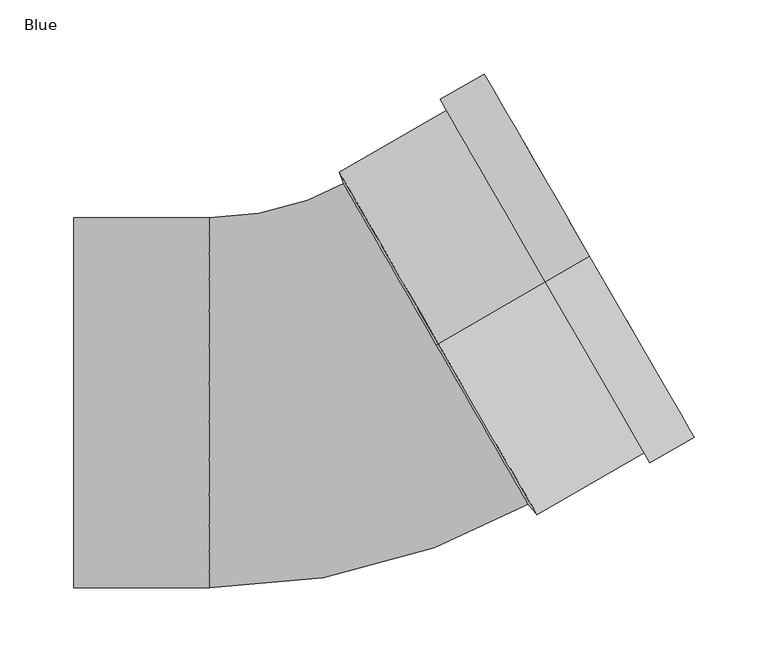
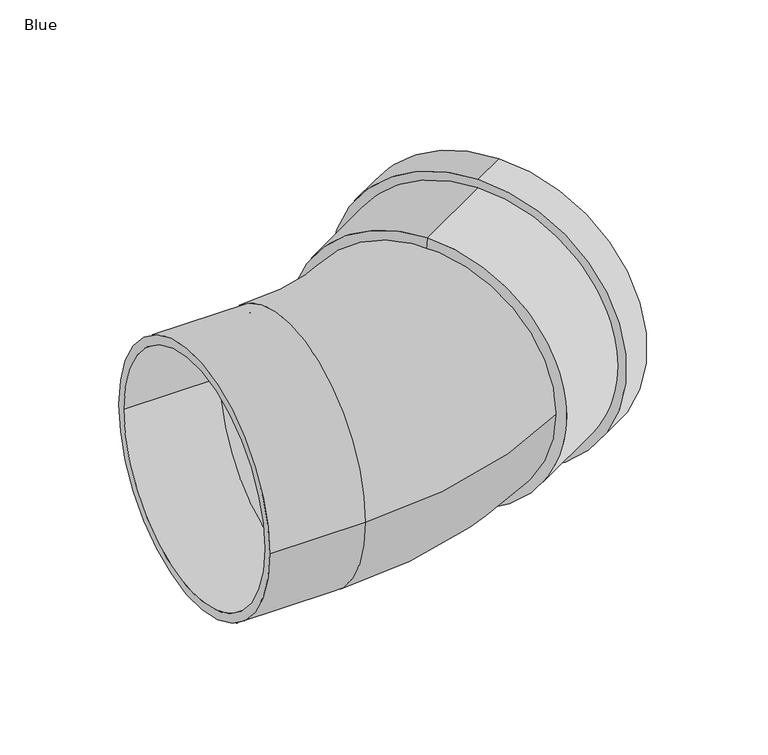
"""IFC4 building model written with IfcOpenShell, lengths in millimetres: pipe fitting geometry, AWADUKT PP SN10 Bend : Blue."""

from ifc_helpers import new_model, si_unit, point, frame, origin, place, context, project, spatial, polyline, circle_curve, ellipse_curve, trimmed, source, transform, mapped, element, save
from ifc_brep_helpers import plane_surface, cylinder_surface, revolved_surface, advanced_brep


def blue_58710f0b(model_context):
    return source(origin(), model_context, "Body", "AdvancedBrep", [
        advanced_brep(
        [(141.5951535, 81.75, 133.6), (141.5951535, 81.75, -133.6), (69.1089616, 39.9000776, -133.6), (69.1089616, 39.9000776, 133.6), (171.3864274, 98.95, 142.2), (171.3864274, 98.95, -142.2), (141.5951535, 81.75, -142.2), (141.5951535, 81.75, 142.2), (163.9386089, 94.65, 125.0), (163.9386089, 94.65, -125.0), (171.3864274, 98.95, -125.0), (171.3864274, 98.95, 125.0), (149.042972, 86.05, 133.6), (149.042972, 86.05, -133.6), (163.9386089, 94.65, -133.6), (163.9386089, 94.65, 133.6), (75.3584234, 43.508206, 125.0), (75.3584234, 43.508206, -125.0), (149.042972, 86.05, -125.0), (149.042972, 86.05, 125.0), (74.045172, 42.75, 116.4), (74.045172, 42.75, -116.4), (66.4824589, 38.3836656, 116.4), (66.4824589, 38.3836656, -116.4)],
        [
            (0, 1, circle_curve(frame((141.5951535, 81.75, 0.0), z_axis=(-0.866025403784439, -0.49999999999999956, 0.0), x_axis=(0.0, 0.0, -1.0)), 133.6)),
            (1, 2),
            (2, 3, circle_curve(frame((69.1089616, 39.9000776, 0.0), z_axis=(0.866025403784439, 0.49999999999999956, 0.0), x_axis=(0.0, 0.0, -1.0)), 133.6)),
            (3, 0),
            (4, 5, circle_curve(frame((171.3864274, 98.95, 0.0), z_axis=(-0.866025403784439, -0.49999999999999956, 0.0), x_axis=(0.0, 0.0, -1.0)), 142.2)),
            (5, 6),
            (6, 7, circle_curve(frame((141.5951535, 81.75, 0.0), z_axis=(0.866025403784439, 0.49999999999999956, 0.0), x_axis=(0.0, 0.0, -1.0)), 142.2)),
            (7, 4),
            (8, 9, circle_curve(frame((163.9386089, 94.65, 0.0), z_axis=(-0.866025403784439, -0.49999999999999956, 0.0), x_axis=(0.0, 0.0, -1.0)), 125.0)),
            (9, 10),
            (10, 11, circle_curve(frame((171.3864274, 98.95, 0.0), z_axis=(0.866025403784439, 0.49999999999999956, 0.0), x_axis=(0.0, 0.0, -1.0)), 125.0)),
            (11, 8),
            (12, 13, circle_curve(frame((149.042972, 86.05, 0.0), z_axis=(-0.866025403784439, -0.49999999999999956, 0.0), x_axis=(0.0, 0.0, -1.0)), 133.6)),
            (13, 14),
            (14, 15, circle_curve(frame((163.9386089, 94.65, 0.0), z_axis=(0.866025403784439, 0.49999999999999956, 0.0), x_axis=(0.0, 0.0, -1.0)), 133.6)),
            (15, 12),
            (16, 17, circle_curve(frame((75.3584234, 43.508206, 0.0), z_axis=(-0.866025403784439, -0.49999999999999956, 0.0), x_axis=(0.0, 0.0, -1.0)), 125.0)),
            (17, 18),
            (18, 19, circle_curve(frame((149.042972, 86.05, 0.0), z_axis=(0.866025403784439, 0.49999999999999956, 0.0), x_axis=(0.0, 0.0, -1.0)), 125.0)),
            (19, 16),
            (20, 21, circle_curve(frame((74.045172, 42.75, 0.0), z_axis=(-0.866025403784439, -0.49999999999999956, 0.0), x_axis=(0.0, 0.0, -1.0)), 116.4)),
            (21, 17),
            (16, 20),
            (22, 23, circle_curve(frame((66.4824589, 38.3836656, 0.0), z_axis=(-0.866025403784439, -0.49999999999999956, 0.0), x_axis=(0.0, 0.0, -1.0)), 116.4)),
            (23, 21),
            (20, 22),
            (2, 23),
            (22, 3),
            (1, 0, circle_curve(frame((141.5951535, 81.75, 0.0), z_axis=(-0.866025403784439, -0.49999999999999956, 0.0), x_axis=(0.0, 0.0, 1.0)), 133.6)),
            (3, 2, circle_curve(frame((69.1089616, 39.9000776, 0.0), z_axis=(0.866025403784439, 0.49999999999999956, 0.0), x_axis=(0.0, 0.0, 1.0)), 133.6)),
            (6, 7, circle_curve(frame((141.5951535, 81.75, 0.0), z_axis=(-0.866025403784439, -0.49999999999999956, 0.0), x_axis=(0.0, 0.0, 1.0)), 142.2)),
            (5, 4, circle_curve(frame((171.3864274, 98.95, 0.0), z_axis=(-0.866025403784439, -0.49999999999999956, 0.0), x_axis=(0.0, 0.0, 1.0)), 142.2)),
            (10, 11, circle_curve(frame((171.3864274, 98.95, 0.0), z_axis=(-0.866025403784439, -0.49999999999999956, 0.0), x_axis=(0.0, 0.0, 1.0)), 125.0)),
            (9, 8, circle_curve(frame((163.9386089, 94.65, 0.0), z_axis=(-0.866025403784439, -0.49999999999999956, 0.0), x_axis=(0.0, 0.0, 1.0)), 125.0)),
            (14, 15, circle_curve(frame((163.9386089, 94.65, 0.0), z_axis=(-0.866025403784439, -0.49999999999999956, 0.0), x_axis=(0.0, 0.0, 1.0)), 133.6)),
            (13, 12, circle_curve(frame((149.042972, 86.05, 0.0), z_axis=(-0.866025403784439, -0.49999999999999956, 0.0), x_axis=(0.0, 0.0, 1.0)), 133.6)),
            (18, 19, circle_curve(frame((149.042972, 86.05, 0.0), z_axis=(-0.866025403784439, -0.49999999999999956, 0.0), x_axis=(0.0, 0.0, 1.0)), 125.0)),
            (17, 16, circle_curve(frame((75.3584234, 43.508206, 0.0), z_axis=(-0.866025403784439, -0.49999999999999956, 0.0), x_axis=(0.0, 0.0, 1.0)), 125.0)),
            (21, 20, circle_curve(frame((74.045172, 42.75, 0.0), z_axis=(-0.866025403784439, -0.49999999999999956, 0.0), x_axis=(0.0, 0.0, 1.0)), 116.4)),
            (23, 22, circle_curve(frame((66.4824589, 38.3836656, 0.0), z_axis=(-0.866025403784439, -0.49999999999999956, 0.0), x_axis=(0.0, 0.0, 1.0)), 116.4)),
        ],
        [
            cylinder_surface(frame((74.045172, 42.75, 0.0), z_axis=(0.866025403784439, 0.49999999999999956, 0.0), x_axis=(0.0, 0.0, -1.0)), 133.6),
            cylinder_surface(frame((74.045172, 42.75, 0.0), z_axis=(0.866025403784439, 0.49999999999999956, 0.0), x_axis=(0.0, 0.0, -1.0)), 142.2),
            revolved_surface(polyline([(171.38642739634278, 98.95000000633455, -125.0), (163.93860890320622, 94.64999999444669, -125.0)]), (74.045172, 42.75, 0.0), (0.866025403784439, 0.49999999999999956, 0.0)),
            revolved_surface(polyline([(163.93860890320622, 94.64999999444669, -133.6), (149.04297199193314, 86.05000001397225, -133.6)]), (74.045172, 42.75, 0.0), (0.866025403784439, 0.49999999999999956, 0.0)),
            revolved_surface(polyline([(149.04297199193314, 86.05000001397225, -125.0), (75.3584233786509, 43.50820603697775, -125.0)]), (74.045172, 42.75, 0.0), (0.866025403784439, 0.49999999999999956, 0.0)),
            revolved_surface(polyline([(75.3584234, 43.508206, -125.0), (74.045172, 42.75, -116.4)]), (74.045172, 42.75, 0.0), (0.866025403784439, 0.49999999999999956, 0.0)),
            revolved_surface(polyline([(74.045172, 42.75, -116.4), (66.48245891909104, 38.383665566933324, -116.4)]), (74.045172, 42.75, 0.0), (0.866025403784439, 0.49999999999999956, 0.0)),
            revolved_surface(polyline([(66.4824589, 38.3836656, -116.4), (69.1089616, 39.9000776, -133.6)]), (74.045172, 42.75, 0.0), (0.866025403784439, 0.49999999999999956, 0.0)),
            cylinder_surface(frame((74.045172, 42.75, 0.0), z_axis=(0.866025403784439, 0.49999999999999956, 0.0), x_axis=(0.0, 0.0, 1.0)), 133.6),
            plane_surface(frame((141.5951535, 81.75, 0.0), z_axis=(-0.866025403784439, -0.49999999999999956, 0.0), x_axis=(0.0, 0.0, 1.0))),
            cylinder_surface(frame((74.045172, 42.75, 0.0), z_axis=(0.866025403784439, 0.49999999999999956, 0.0), x_axis=(0.0, 0.0, 1.0)), 142.2),
            plane_surface(frame((171.3864274, 98.95, 0.0), z_axis=(0.866025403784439, 0.49999999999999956, 0.0), x_axis=(0.0, 0.0, 1.0))),
            revolved_surface(polyline([(171.38642739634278, 98.95000000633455, 125.0), (163.93860890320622, 94.64999999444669, 125.0)]), (74.045172, 42.75, 0.0), (0.866025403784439, 0.49999999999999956, 0.0)),
            plane_surface(frame((163.9386089, 94.65, 0.0), z_axis=(-0.866025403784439, -0.49999999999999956, 0.0), x_axis=(0.0, 0.0, 1.0))),
            revolved_surface(polyline([(163.93860890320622, 94.64999999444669, 133.6), (149.04297199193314, 86.05000001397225, 133.6)]), (74.045172, 42.75, 0.0), (0.866025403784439, 0.49999999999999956, 0.0)),
            plane_surface(frame((149.042972, 86.05, 0.0), z_axis=(0.866025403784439, 0.49999999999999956, 0.0), x_axis=(0.0, 0.0, 1.0))),
            revolved_surface(polyline([(149.04297199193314, 86.05000001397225, 125.0), (75.3584233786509, 43.50820603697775, 125.0)]), (74.045172, 42.75, 0.0), (0.866025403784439, 0.49999999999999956, 0.0)),
            revolved_surface(polyline([(75.3584234, 43.508206, 125.0), (74.045172, 42.75, 116.4)]), (74.045172, 42.75, 0.0), (0.866025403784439, 0.49999999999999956, 0.0)),
            revolved_surface(polyline([(74.045172, 42.75, 116.4), (66.48245891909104, 38.383665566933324, 116.4)]), (74.045172, 42.75, 0.0), (0.866025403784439, 0.49999999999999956, 0.0)),
            revolved_surface(polyline([(66.4824589, 38.3836656, 116.4), (69.1089616, 39.9000776, 133.6)]), (74.045172, 42.75, 0.0), (0.866025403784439, 0.49999999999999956, 0.0)),
        ],
        [
            (0, [[1, 2, 3, 4]]),
            (1, [[5, 6, 7, 8]]),
            (2, [[9, 10, 11, 12]]),
            (3, [[13, 14, 15, 16]]),
            (4, [[17, 18, 19, 20]]),
            (5, [[21, 22, -17, 23]]),
            (6, [[24, 25, -21, 26]]),
            (7, [[-3, 27, -24, 28]]),
            (8, [[29, -4, 30, -2]]),
            (9, [[31, -7], [-29, -1]]),
            (10, [[32, -8, -31, -6]]),
            (11, [[-32, -5], [33, -11]]),
            (12, [[34, -12, -33, -10]]),
            (13, [[35, -15], [-34, -9]]),
            (14, [[36, -16, -35, -14]]),
            (15, [[-36, -13], [37, -19]]),
            (16, [[38, -20, -37, -18]]),
            (17, [[39, -23, -38, -22]]),
            (18, [[40, -26, -39, -25]]),
            (19, [[-30, -28, -40, -27]]),
        ],
    ),
        advanced_brep(
        [(-177.0, -125.0, 0.0), (-177.0, 125.0, 0.0), (-177.0, -116.4, 0.0), (-177.0, 116.4, 0.0), (136.545172, -65.5031755, 0.0), (11.545172, 151.0031755, 0.0), (132.245172, -58.055357, 0.0), (15.845172, 143.555357, 0.0), (-85.5, -116.4, 0.0), (-85.5, 116.4, 0.0), (-85.5, -125.0, 0.0), (-85.5, 125.0, 0.0)],
        [
            (0, 1, circle_curve(frame((-177.0, 0.0, 0.0), z_axis=(-1.0, 0.0, 0.0), x_axis=(0.0, 1.0, 0.0)), 125.0)),
            (1, 0, circle_curve(frame((-177.0, 0.0, 0.0), z_axis=(-1.0, 0.0, 0.0), x_axis=(0.0, 1.0, 0.0)), 125.0)),
            (2, 3, circle_curve(frame((-177.0, 0.0, 0.0), z_axis=(1.0, 0.0, 0.0), x_axis=(0.0, 1.0, 0.0)), 116.4)),
            (3, 2, circle_curve(frame((-177.0, 0.0, 0.0), z_axis=(1.0, 0.0, 0.0), x_axis=(0.0, 1.0, 0.0)), 116.4)),
            (4, 5, circle_curve(frame((74.045172, 42.75, 0.0), z_axis=(0.8660254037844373, 0.5000000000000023, 0.0), x_axis=(-0.5000000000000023, 0.8660254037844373, 0.0)), 125.0)),
            (5, 4, circle_curve(frame((74.045172, 42.75, 0.0), z_axis=(0.8660254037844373, 0.5000000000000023, 0.0), x_axis=(-0.5000000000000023, 0.8660254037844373, 0.0)), 125.0)),
            (6, 7, circle_curve(frame((74.045172, 42.75, 0.0), z_axis=(-0.8660254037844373, -0.5000000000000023, 0.0), x_axis=(-0.5000000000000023, 0.8660254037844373, 0.0)), 116.4)),
            (7, 6, circle_curve(frame((74.045172, 42.75, 0.0), z_axis=(-0.8660254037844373, -0.5000000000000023, 0.0), x_axis=(-0.5000000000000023, 0.8660254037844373, 0.0)), 116.4)),
            (2, 8),
            (8, 9, circle_curve(frame((-85.5, 0.0, 0.0), z_axis=(1.0, 0.0, 0.0), x_axis=(0.0, 1.0, 0.0)), 116.4)),
            (9, 3),
            (9, 8, circle_curve(frame((-85.5, 0.0, 0.0), z_axis=(1.0, 0.0, 0.0), x_axis=(0.0, 1.0, 0.0)), 116.4)),
            (0, 10),
            (10, 11, circle_curve(frame((-85.5, 0.0, 0.0), z_axis=(-1.0, 0.0, 0.0), x_axis=(0.0, 1.0, 0.0)), 125.0)),
            (11, 1),
            (11, 10, circle_curve(frame((-85.5, 0.0, 0.0), z_axis=(-1.0, 0.0, 0.0), x_axis=(0.0, 1.0, 0.0)), 125.0)),
            (7, 9, circle_curve(frame((-85.5, 319.090344, 0.0), z_axis=(0.0, 0.0, -1.0), x_axis=(0.0, -1.0, 0.0)), 202.690344)),
            (8, 6, circle_curve(frame((-85.5, 319.090344, 0.0), z_axis=(0.0, 0.0, 1.0), x_axis=(0.0, -1.0, 0.0)), 435.490344)),
            (5, 11, circle_curve(frame((-85.5, 319.090344, 0.0), z_axis=(0.0, 0.0, -1.0), x_axis=(0.0, -1.0, 0.0)), 194.090344)),
            (10, 4, circle_curve(frame((-85.5, 319.090344, 0.0), z_axis=(0.0, 0.0, 1.0), x_axis=(0.0, -1.0, 0.0)), 444.090344)),
        ],
        [
            plane_surface(frame((-177.0, 0.0, 0.0), z_axis=(-1.0, 0.0, 0.0), x_axis=(0.0, 0.0, 1.0))),
            plane_surface(frame((74.045172, 42.75, 0.0), z_axis=(0.8660254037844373, 0.5000000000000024, 0.0), x_axis=(0.0, 0.0, 1.0))),
            revolved_surface(polyline([(-85.5, 116.4, 0.0), (-177.0, 116.4, 0.0)]), (-177.0, 0.0, 0.0), (1.0, 0.0, 0.0)),
            cylinder_surface(frame((-177.0, 0.0, 0.0), z_axis=(-1.0, 0.0, 0.0), x_axis=(0.0, 1.0, 0.0)), 125.0),
            revolved_surface(trimmed(ellipse_curve(frame((-85.5, 0.0, 0.0), z_axis=(1.0, 0.0, 0.0), x_axis=(0.0, 1.0, 0.0)), 116.4, 116.4), [point((-85.5, -116.4, 0.0))], [point((-85.5, 116.4, 0.0))], True, "CARTESIAN"), (-85.5, 319.090344, 0.0), (0.0, 0.0, 1.0)),
            revolved_surface(trimmed(ellipse_curve(frame((-85.5, 0.0, 0.0), z_axis=(1.0, 0.0, 0.0), x_axis=(0.0, 1.0, 0.0)), 116.4, 116.4), [point((-85.5, 116.4, 0.0))], [point((-85.5, -116.4, 0.0))], True, "CARTESIAN"), (-85.5, 319.090344, 0.0), (0.0, 0.0, 1.0)),
            revolved_surface(trimmed(ellipse_curve(frame((-85.5, 0.0, 0.0), z_axis=(-1.0, 0.0, 0.0), x_axis=(0.0, 1.0, 0.0)), 125.0, 125.0), [point((-85.5, -125.0, 0.0))], [point((-85.5, 125.0, 0.0))], True, "CARTESIAN"), (-85.5, 319.090344, 0.0), (0.0, 0.0, 1.0)),
            revolved_surface(trimmed(ellipse_curve(frame((-85.5, 0.0, 0.0), z_axis=(-1.0, 0.0, 0.0), x_axis=(0.0, 1.0, 0.0)), 125.0, 125.0), [point((-85.5, 125.0, 0.0))], [point((-85.5, -125.0, 0.0))], True, "CARTESIAN"), (-85.5, 319.090344, 0.0), (0.0, 0.0, 1.0)),
        ],
        [
            (0, [[1, 2], [3, 4]]),
            (1, [[5, 6], [7, 8]]),
            (2, [[-3, 9, 10, 11]]),
            (2, [[-4, -11, 12, -9]]),
            (3, [[-1, 13, 14, 15]]),
            (3, [[-2, -15, 16, -13]]),
            (4, [[17, -10, 18, -8]]),
            (5, [[-18, -12, -17, -7]]),
            (6, [[19, -14, 20, -6]]),
            (7, [[-20, -16, -19, -5]]),
        ],
    ),
    ])


if __name__ == "__main__":
    model = new_model("IFC4")
    model_context = context("Model", 3, world=origin())
    ifc_project = project(units=[si_unit("LENGTHUNIT", "METRE", prefix="MILLI")], contexts=[model_context])
    site = spatial("IfcSite", under=ifc_project)
    building = spatial("IfcBuilding", under=site)
    placement = place(None, origin())
    blue_shape = blue_58710f0b(model_context)
    element("IfcPipeFitting", 1, ObjectType="AWADUKT PP SN10 Bend : Blue", at=placement, inside=building, context=model_context, shape_type="MappedRepresentation", body=[
        mapped(blue_shape, transform((0.0, 0.0, 0.0), x_axis=(1.0, 0.0, 0.0), y_axis=(0.0, 1.0, 0.0), z_axis=(0.0, 0.0, 1.0))),
    ])
    save(model, "model.ifc")
